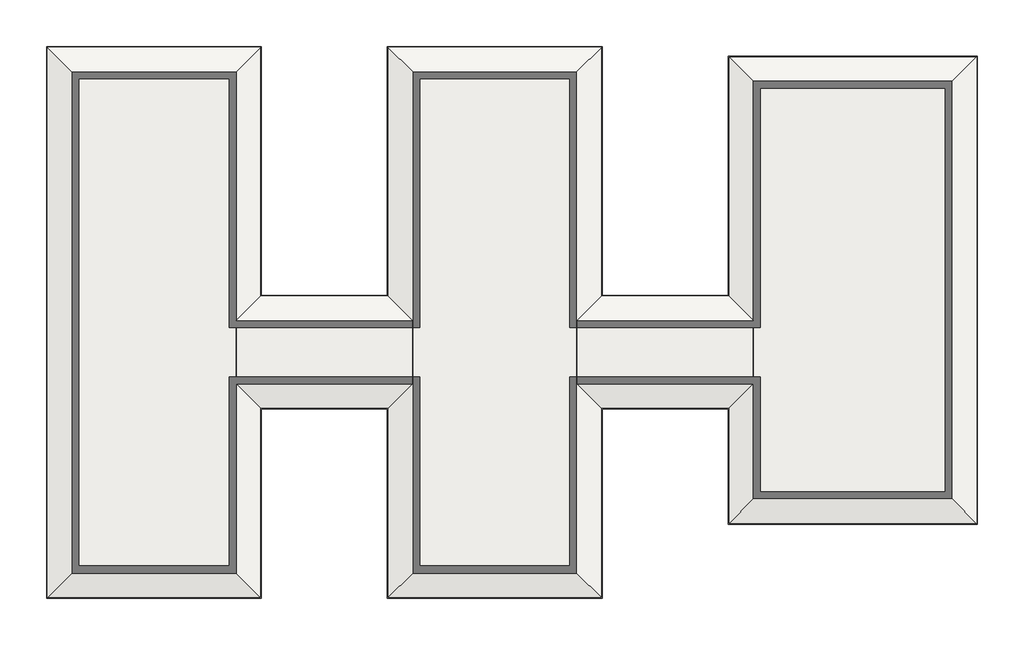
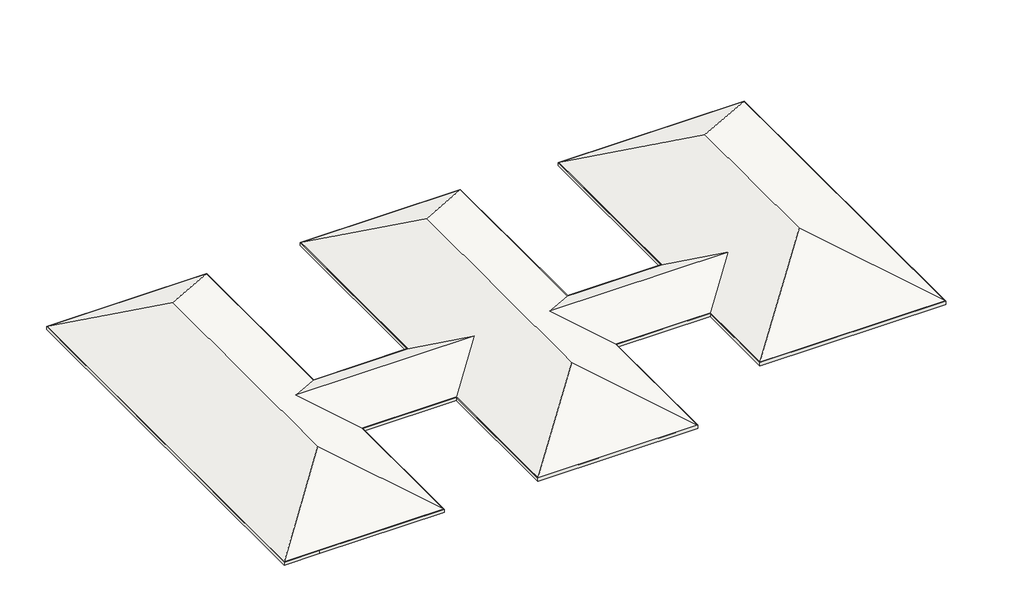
# One storey: 1 roof, 1 slab.
"""IFC4 building model written with IfcOpenShell, lengths in millimetres."""

from ifc_helpers import new_model, si_unit, frame, origin, place, context, project, spatial, polyline, outline, extrude, faceted_brep, element, save

model = new_model("IFC4")

# Units and contexts
model_context = context("Model", 3, world=origin())
ifc_project = project(units=[si_unit("LENGTHUNIT", "METRE", prefix="MILLI")], contexts=[model_context])

# Site, building, storey
site = spatial("IfcSite", under=ifc_project)
building = spatial("IfcBuilding", under=site)
storey = spatial("IfcBuildingStorey", under=building, Name="Крыша", Elevation=7000.0)

# Roof
placement = place(None, origin())
element("IfcRoof", 1, ObjectType="ADSK_Скатная_Мягкая_Ут200 доска30 покрытие10 (240)", at=placement, inside=storey, context=model_context, shape_type="Brep", body=[
    faceted_brep([(-31622.3240021, 15824.6370105, 10937.5288359), (-38442.3240021, 22644.6370105, 7000.0), (-24802.3240021, 22644.6370105, 7000.0), (-38442.3240021, -12415.3629895, 7000.0), (-31622.3240021, -5595.3629895, 10937.5288359), (-24802.3240021, -12415.3629895, 7000.0), (-35377.3240021, -12415.3629895, 7000.0), (-16802.3240021, -12415.3629895, 7000.0), (-9982.3240021, -5595.3629895, 10937.5288359), (-3162.3240021, -12415.3629895, 7000.0), (-3162.3240021, -385.3629895, 7000.0), (-6772.3240021, 3224.6370105, 9084.2344718), (8447.6759979, 3224.6370105, 9084.2344718), (4837.6759979, -385.3629895, 7000.0), (4837.6759979, 6834.6370105, 7000.0), (4837.6759979, 22034.6370105, 7000.0), (12752.6759979, 14119.6370105, 11569.7273806), (12752.6759979, 209.6370105, 11569.7273806), (4837.6759979, -7705.3629895, 7000.0), (20667.6759979, -7705.3629895, 7000.0), (-3162.3240021, 22644.6370105, 7000.0), (-9982.3240021, 15824.6370105, 10937.5288359), (-16802.3240021, 22644.6370105, 7000.0), (-24802.3240021, 6834.6370105, 7000.0), (-28412.3240021, 3224.6370105, 9084.2344718), (-24802.3240021, -385.3629895, 7000.0), (-16802.3240021, 6834.6370105, 7000.0), (-13192.3240021, 3224.6370105, 9084.2344718), (-16802.3240021, -385.3629895, 7000.0), (20667.6759979, 22034.6370105, 7000.0), (-3162.3240021, 16519.4362632, 7000.0), (-3162.3240021, 6834.6370105, 7000.0), (-38442.3240021, 22644.6370105, 7277.1281292), (-31622.3240021, 15824.6370105, 11214.6569651), (-24802.3240021, 22644.6370105, 7277.1281292), (-38442.3240021, -12415.3629895, 7277.1281292), (-35377.3240021, -12415.3629895, 7277.1281292), (-24802.3240021, -12415.3629895, 7277.1281292), (-31622.3240021, -5595.3629895, 11214.6569651), (-16802.3240021, -12415.3629895, 7277.1281292), (-3162.3240021, -12415.3629895, 7277.1281292), (-9982.3240021, -5595.3629895, 11214.6569651), (-3162.3240021, -385.3629895, 7277.1281292), (4837.6759979, -385.3629895, 7277.1281292), (8447.6759979, 3224.6370105, 9361.362601), (-6772.3240021, 3224.6370105, 9361.362601), (4837.6759979, -7705.3629895, 7277.1281292), (12752.6759979, 209.6370105, 11846.8555098), (12752.6759979, 14119.6370105, 11846.8555098), (4837.6759979, 22034.6370105, 7277.1281292), (4837.6759979, 6834.6370105, 7277.1281292), (20667.6759979, -7705.3629895, 7277.1281292), (-3162.3240021, 22644.6370105, 7277.1281292), (-16802.3240021, 22644.6370105, 7277.1281292), (-9982.3240021, 15824.6370105, 11214.6569651), (-24802.3240021, -385.3629895, 7277.1281292), (-28412.3240021, 3224.6370105, 9361.362601), (-24802.3240021, 6834.6370105, 7277.1281292), (-16802.3240021, 6834.6370105, 7277.1281292), (-13192.3240021, 3224.6370105, 9361.362601), (-16802.3240021, -385.3629895, 7277.1281292), (20667.6759979, 22034.6370105, 7277.1281292), (-3162.3240021, 6834.6370105, 7277.1281292), (-3162.3240021, 16519.4362632, 7277.1281292)], [[[0, 1, 2]], [[3, 4, 5, 6]], [[7, 8, 9]], [[10, 11, 12, 13]], [[13, 12, 14, 15, 16, 17, 18]], [[18, 17, 19]], [[20, 21, 22]], [[5, 4, 0, 2, 23, 24, 25]], [[1, 0, 4, 3]], [[26, 27, 24, 23]], [[28, 27, 26, 22, 21, 8, 7]], [[25, 24, 27, 28]], [[19, 17, 16, 29]], [[9, 8, 21, 20, 30, 31, 11, 10]], [[14, 12, 11, 31]], [[29, 16, 15]], [[32, 33, 34]], [[35, 36, 37, 38]], [[39, 40, 41]], [[42, 43, 44, 45]], [[43, 46, 47, 48, 49, 50, 44]], [[46, 51, 47]], [[52, 53, 54]], [[37, 55, 56, 57, 34, 33, 38]], [[32, 35, 38, 33]], [[58, 57, 56, 59]], [[60, 39, 41, 54, 53, 58, 59]], [[55, 60, 59, 56]], [[51, 61, 48, 47]], [[40, 42, 45, 62, 63, 52, 54, 41]], [[50, 62, 45, 44]], [[61, 49, 48]], [[3, 35, 32, 1]], [[6, 36, 35, 3]], [[5, 37, 36, 6]], [[25, 55, 37, 5]], [[28, 60, 55, 25]], [[7, 39, 60, 28]], [[9, 40, 39, 7]], [[10, 42, 40, 9]], [[13, 43, 42, 10]], [[18, 46, 43, 13]], [[19, 51, 46, 18]], [[29, 61, 51, 19]], [[15, 49, 61, 29]], [[14, 50, 49, 15]], [[31, 62, 50, 14]], [[30, 63, 62, 31]], [[20, 52, 63, 30]], [[22, 53, 52, 20]], [[26, 58, 53, 22]], [[23, 57, 58, 26]], [[2, 34, 57, 23]], [[1, 32, 34, 2]]]),
])

# Slab
element("IfcSlab", 2, ObjectType="ADSK_Перекрытие_Плита с полом_Бетон220 лаги40 доска40_300", at=placement, inside=storey, context=model_context, shape_type="SweptSolid", body=[
    extrude(outline(polyline([(-38442.3240021, -12415.3629895), (-38442.3240021, 22644.6370105), (-24802.3240021, 22644.6370105), (-24802.3240021, 6834.6370105), (-16802.3240021, 6834.6370105), (-16802.3240021, 22644.6370105), (-3162.3240021, 22644.6370105), (-3162.3240021, 16519.4362632), (-3162.3240021, 15097.1370105), (-3162.3240021, 6834.6370105), (4837.6759979, 6834.6370105), (4837.6759979, 22034.6370105), (20667.6759979, 22034.6370105), (20667.6759979, -7705.3629895), (4837.6759979, -7705.3629895), (4837.6759979, -385.3629895), (-3162.3240021, -385.3629895), (-3162.3240021, -12415.3629895), (-16802.3240021, -12415.3629895), (-16802.3240021, -385.3629895), (-24802.3240021, -385.3629895), (-24802.3240021, -12415.3629895), (-35377.3240021, -12415.3629895), (-38442.3240021, -12415.3629895)])), frame((0.0, 0.0, 7000.0), z_axis=(0.0, 0.0, 1.0), x_axis=(1.0, 0.0, 0.0)), (0.0, 0.0, 1.0), 300.0),
])

save(model, "model.ifc")
